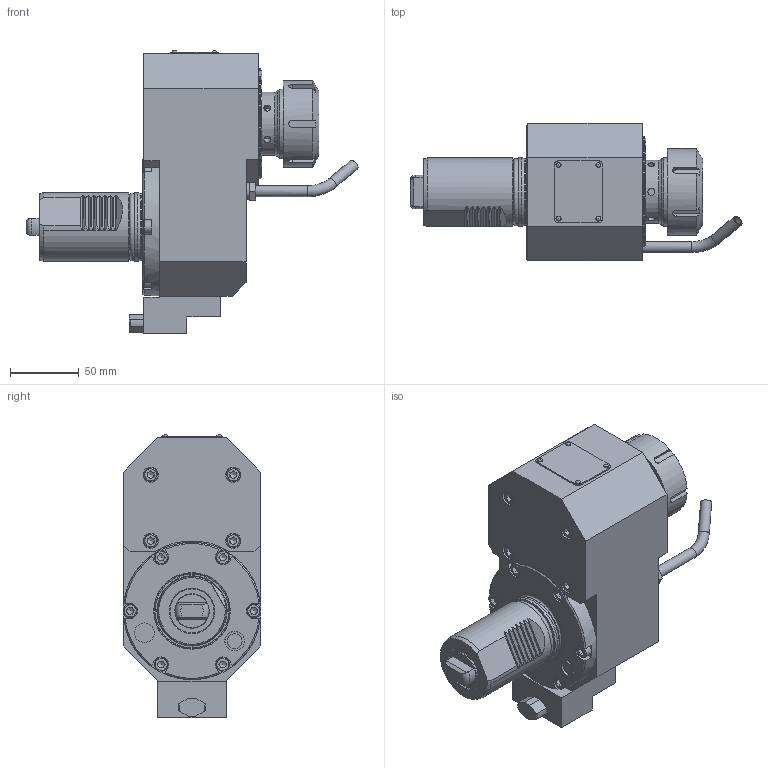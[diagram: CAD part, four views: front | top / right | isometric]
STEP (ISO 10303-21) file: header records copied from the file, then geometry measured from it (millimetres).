
FILE_DESCRIPTION(/* description */ (''),/* implementation_level */ '2;1');
FILE_NAME(/* name */ '189954',/* time_stamp */ '2020-03-04T11:20:21+01:00',/* author */ (''),/* organization */ (''),/* preprocessor_version */ 'ST-DEVELOPER v16.5',/* originating_system */ 'HiCAD 2017 2201.0 Build 268',/* authorisation */ '');
FILE_SCHEMA (('AUTOMOTIVE_DESIGN { 1 0 10303 214 1 1 1 1 }'));
Length unit declared in the file: millimetre
Products named in the file (18): Root; Teil; DIN 13-M12x1; GEWINDE; DIN 13-M50x1,5; DIN 76-M8; Normteilgruppe _0
Assembly tree (17 placements, depth 3):
  Root
    Teil
      DIN 13-M12x1
      GEWINDE
      GEWINDE
      GEWINDE
      GEWINDE
      GEWINDE
      GEWINDE
      GEWINDE
      GEWINDE
      GEWINDE
      GEWINDE
      DIN 13-M50x1,5
      GEWINDE
      DIN 76-M8
      DIN 13-M50x1,5
      Normteilgruppe _0
Bounding box: 241.43 x 100 x 205.8 mm (x, y, z)
Volume: 1553263.5 mm3; surface area: 146607.2 mm2
Topology: 17 solids, 31 shells, 600 faces, 1455 edges, 940 vertices
Faces by surface type: plane 361, cylinder 159, cone 55, torus 21, sphere 4
Full cylindrical faces by diameter (mm): 2 x4, 2.2 x4, 4.773 x20, 5 x6, 6 x22, 6.466 x3, 6.6 x10, 8 x5, 10 x10, 10.773 x2, 10.82 x1, 11 x4, 12 x1, 14.18 x1, 14.27 x2, 25 x1, 30.5 x1, 32 x1, 43.8 x2, 46 x1, 48.16 x3, 48.7 x1, 50 x5, 51 x1, 63 x1, 70 x1, 80 x1, 100 x1
Entity records: 38298 total; most frequent: CARTESIAN_POINT 12484, DIRECTION 2806, PRESENTATION_STYLE_ASSIGNMENT 2487, OVER_RIDING_STYLED_ITEM 2471, DRAUGHTING_PRE_DEFINED_CURVE_FONT 2312, CURVE_STYLE 2312, ORIENTED_EDGE 2312, COLOUR_RGB 2286
